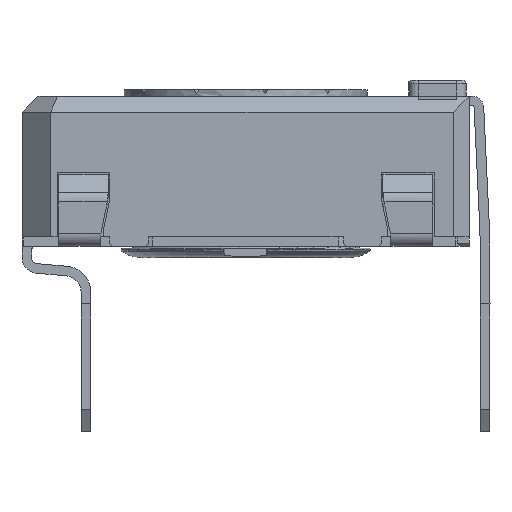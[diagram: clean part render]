
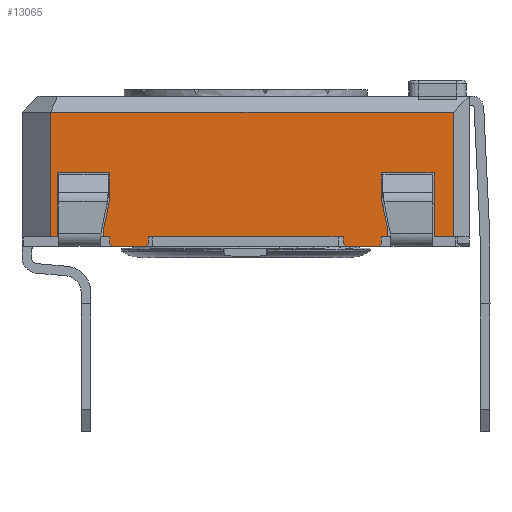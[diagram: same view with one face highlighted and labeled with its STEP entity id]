
A CAD part, left-side view. The second image highlights one B-rep face of the part: STEP entity #13065.
In plain terms, the highlighted planar face has unit normal (-1, 0, 0).
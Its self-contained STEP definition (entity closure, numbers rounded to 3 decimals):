
#449=PLANE('',#13955);
#1055=FACE_OUTER_BOUND('',#1749,.T.);
#1749=EDGE_LOOP('',(#10775,#10776,#10777,#10778,#10779,#10780,#10781,#10782,
#10783,#10784,#10785,#10786,#10787,#10788,#10789,#10790,#10791,#10792,#10793,
#10794,#10795,#10796,#10797,#10798,#10799,#10800,#10801,#10802));
#2743=LINE('',#19934,#4243);
#2749=LINE('',#19946,#4249);
#2752=LINE('',#19953,#4252);
#2757=LINE('',#19962,#4257);
#2777=LINE('',#20003,#4277);
#2791=LINE('',#20029,#4291);
#2795=LINE('',#20036,#4295);
#2810=LINE('',#20065,#4310);
#2813=LINE('',#20071,#4313);
#2818=LINE('',#20081,#4318);
#2821=LINE('',#20087,#4321);
#2824=LINE('',#20093,#4324);
#2842=LINE('',#20128,#4342);
#2854=LINE('',#20150,#4354);
#2857=LINE('',#20156,#4357);
#2894=LINE('',#20290,#4394);
#2897=LINE('',#20296,#4397);
#2923=LINE('',#20343,#4423);
#2928=LINE('',#20353,#4428);
#2930=LINE('',#20356,#4430);
#3054=LINE('',#20664,#4554);
#3056=LINE('',#20669,#4556);
#3059=LINE('',#20673,#4559);
#3061=LINE('',#20677,#4561);
#3064=LINE('',#20685,#4564);
#3065=LINE('',#20687,#4565);
#3066=LINE('',#20688,#4566);
#3067=LINE('',#20689,#4567);
#4243=VECTOR('',#16030,10.);
#4249=VECTOR('',#16038,10.);
#4252=VECTOR('',#16043,10.);
#4257=VECTOR('',#16050,10.);
#4277=VECTOR('',#16084,10.);
#4291=VECTOR('',#16098,10.);
#4295=VECTOR('',#16102,10.);
#4310=VECTOR('',#16129,10.);
#4313=VECTOR('',#16134,10.);
#4318=VECTOR('',#16141,10.);
#4321=VECTOR('',#16146,10.);
#4324=VECTOR('',#16151,10.);
#4342=VECTOR('',#16171,10.);
#4354=VECTOR('',#16185,10.);
#4357=VECTOR('',#16190,10.);
#4394=VECTOR('',#16271,10.);
#4397=VECTOR('',#16276,10.);
#4423=VECTOR('',#16304,10.);
#4428=VECTOR('',#16311,10.);
#4430=VECTOR('',#16315,10.);
#4554=VECTOR('',#16607,10.);
#4556=VECTOR('',#16611,10.);
#4559=VECTOR('',#16616,10.);
#4561=VECTOR('',#16622,10.);
#4564=VECTOR('',#16633,10.);
#4565=VECTOR('',#16634,10.);
#4566=VECTOR('',#16635,10.);
#4567=VECTOR('',#16636,10.);
#5980=VERTEX_POINT('',#19931);
#5981=VERTEX_POINT('',#19933);
#5985=VERTEX_POINT('',#19943);
#5987=VERTEX_POINT('',#19949);
#5989=VERTEX_POINT('',#19952);
#5992=VERTEX_POINT('',#19960);
#6017=VERTEX_POINT('',#20026);
#6018=VERTEX_POINT('',#20028);
#6020=VERTEX_POINT('',#20033);
#6021=VERTEX_POINT('',#20035);
#6028=VERTEX_POINT('',#20062);
#6030=VERTEX_POINT('',#20068);
#6034=VERTEX_POINT('',#20078);
#6036=VERTEX_POINT('',#20084);
#6039=VERTEX_POINT('',#20091);
#6055=VERTEX_POINT('',#20126);
#6064=VERTEX_POINT('',#20148);
#6066=VERTEX_POINT('',#20154);
#6093=VERTEX_POINT('',#20288);
#6094=VERTEX_POINT('',#20293);
#6114=VERTEX_POINT('',#20340);
#6118=VERTEX_POINT('',#20350);
#6192=VERTEX_POINT('',#20661);
#6193=VERTEX_POINT('',#20663);
#6194=VERTEX_POINT('',#20667);
#6195=VERTEX_POINT('',#20668);
#6196=VERTEX_POINT('',#20684);
#6197=VERTEX_POINT('',#20686);
#7493=EDGE_CURVE('',#5981,#5980,#2743,.T.);
#7499=EDGE_CURVE('',#5980,#5985,#2749,.T.);
#7502=EDGE_CURVE('',#5989,#5987,#2752,.T.);
#7507=EDGE_CURVE('',#5992,#5987,#2757,.T.);
#7527=EDGE_CURVE('',#5985,#5989,#2777,.T.);
#7541=EDGE_CURVE('',#6018,#6017,#2791,.T.);
#7545=EDGE_CURVE('',#6021,#6020,#2795,.T.);
#7561=EDGE_CURVE('',#6017,#6028,#2810,.T.);
#7564=EDGE_CURVE('',#6028,#6030,#2813,.T.);
#7569=EDGE_CURVE('',#6030,#6034,#2818,.T.);
#7572=EDGE_CURVE('',#6034,#6036,#2821,.T.);
#7575=EDGE_CURVE('',#6036,#6039,#2824,.T.);
#7593=EDGE_CURVE('',#6039,#6055,#2842,.T.);
#7605=EDGE_CURVE('',#6064,#6055,#2854,.T.);
#7608=EDGE_CURVE('',#6066,#6064,#2857,.T.);
#7657=EDGE_CURVE('',#6093,#6066,#2894,.T.);
#7660=EDGE_CURVE('',#6093,#6094,#2897,.T.);
#7686=EDGE_CURVE('',#6094,#6114,#2923,.T.);
#7691=EDGE_CURVE('',#6114,#6118,#2928,.T.);
#7693=EDGE_CURVE('',#6118,#5981,#2930,.T.);
#7833=EDGE_CURVE('',#6192,#6193,#3054,.T.);
#7835=EDGE_CURVE('',#6194,#6195,#3056,.T.);
#7838=EDGE_CURVE('',#6018,#6192,#3059,.T.);
#7840=EDGE_CURVE('',#6020,#6195,#3061,.T.);
#7843=EDGE_CURVE('',#5992,#6196,#3064,.T.);
#7844=EDGE_CURVE('',#6197,#6196,#3065,.T.);
#7845=EDGE_CURVE('',#6021,#6197,#3066,.T.);
#7846=EDGE_CURVE('',#6194,#6193,#3067,.T.);
#10775=ORIENTED_EDGE('',*,*,#7499,.T.);
#10776=ORIENTED_EDGE('',*,*,#7527,.T.);
#10777=ORIENTED_EDGE('',*,*,#7502,.T.);
#10778=ORIENTED_EDGE('',*,*,#7507,.F.);
#10779=ORIENTED_EDGE('',*,*,#7843,.T.);
#10780=ORIENTED_EDGE('',*,*,#7844,.F.);
#10781=ORIENTED_EDGE('',*,*,#7845,.F.);
#10782=ORIENTED_EDGE('',*,*,#7545,.T.);
#10783=ORIENTED_EDGE('',*,*,#7840,.T.);
#10784=ORIENTED_EDGE('',*,*,#7835,.F.);
#10785=ORIENTED_EDGE('',*,*,#7846,.T.);
#10786=ORIENTED_EDGE('',*,*,#7833,.F.);
#10787=ORIENTED_EDGE('',*,*,#7838,.F.);
#10788=ORIENTED_EDGE('',*,*,#7541,.T.);
#10789=ORIENTED_EDGE('',*,*,#7561,.T.);
#10790=ORIENTED_EDGE('',*,*,#7564,.T.);
#10791=ORIENTED_EDGE('',*,*,#7569,.T.);
#10792=ORIENTED_EDGE('',*,*,#7572,.T.);
#10793=ORIENTED_EDGE('',*,*,#7575,.T.);
#10794=ORIENTED_EDGE('',*,*,#7593,.T.);
#10795=ORIENTED_EDGE('',*,*,#7605,.F.);
#10796=ORIENTED_EDGE('',*,*,#7608,.F.);
#10797=ORIENTED_EDGE('',*,*,#7657,.F.);
#10798=ORIENTED_EDGE('',*,*,#7660,.T.);
#10799=ORIENTED_EDGE('',*,*,#7686,.T.);
#10800=ORIENTED_EDGE('',*,*,#7691,.T.);
#10801=ORIENTED_EDGE('',*,*,#7693,.T.);
#10802=ORIENTED_EDGE('',*,*,#7493,.T.);
#13065=ADVANCED_FACE('',(#1055),#449,.T.);
#13955=AXIS2_PLACEMENT_3D('',#20683,#16631,#16632);
#16030=DIRECTION('',(0.,0.208,-0.978));
#16038=DIRECTION('',(0.,0.,-1.));
#16043=DIRECTION('',(0.,0.,-1.));
#16050=DIRECTION('',(0.,0.707,0.707));
#16084=DIRECTION('',(0.,-1.,0.));
#16098=DIRECTION('',(0.,-1.,0.));
#16102=DIRECTION('',(0.,-1.,0.));
#16129=DIRECTION('',(0.,0.,1.));
#16134=DIRECTION('',(0.,0.208,0.978));
#16141=DIRECTION('',(0.,0.,1.));
#16146=DIRECTION('',(0.,-1.,0.));
#16151=DIRECTION('',(0.,0.,-1.));
#16171=DIRECTION('',(0.,-1.,0.));
#16185=DIRECTION('',(0.,0.,-1.));
#16190=DIRECTION('',(0.,-1.,0.));
#16271=DIRECTION('',(0.,0.,1.));
#16276=DIRECTION('',(0.,-1.,0.));
#16304=DIRECTION('',(0.,0.,1.));
#16311=DIRECTION('',(0.,-1.,0.));
#16315=DIRECTION('',(0.,0.,-1.));
#16607=DIRECTION('',(0.,0.707,-0.707));
#16611=DIRECTION('',(0.,0.707,0.707));
#16616=DIRECTION('',(0.,0.,-1.));
#16622=DIRECTION('',(0.,0.,-1.));
#16631=DIRECTION('center_axis',(-1.,0.,0.));
#16632=DIRECTION('ref_axis',(0.,0.,1.));
#16633=DIRECTION('',(0.,-1.,0.));
#16634=DIRECTION('',(0.,0.707,-0.707));
#16635=DIRECTION('',(0.,0.,-1.));
#16636=DIRECTION('',(0.,-1.,0.));
#19931=CARTESIAN_POINT('',(-14.467,1.552,0.235));
#19933=CARTESIAN_POINT('',(-14.467,1.352,1.176));
#19934=CARTESIAN_POINT('',(-14.467,1.228,1.757));
#19943=CARTESIAN_POINT('',(-14.467,1.552,0.));
#19946=CARTESIAN_POINT('',(-14.467,1.552,0.));
#19949=CARTESIAN_POINT('',(-14.467,1.352,-0.2));
#19952=CARTESIAN_POINT('',(-14.467,1.352,0.));
#19953=CARTESIAN_POINT('',(-14.467,1.352,0.));
#19960=CARTESIAN_POINT('',(-14.467,1.252,-0.3));
#19962=CARTESIAN_POINT('',(-14.467,-1.436,-2.988));
#20003=CARTESIAN_POINT('',(-14.467,4.102,0.));
#20026=CARTESIAN_POINT('',(-14.467,-7.348,0.));
#20028=CARTESIAN_POINT('',(-14.467,-7.148,0.));
#20029=CARTESIAN_POINT('',(-14.467,4.102,0.));
#20033=CARTESIAN_POINT('',(-14.467,-5.948,0.));
#20035=CARTESIAN_POINT('',(-14.467,0.152,0.));
#20036=CARTESIAN_POINT('',(-14.467,4.102,0.));
#20062=CARTESIAN_POINT('',(-14.467,-7.348,0.235));
#20065=CARTESIAN_POINT('',(-14.467,-7.348,0.118));
#20068=CARTESIAN_POINT('',(-14.467,-7.148,1.176));
#20071=CARTESIAN_POINT('',(-14.467,-7.453,-0.254));
#20078=CARTESIAN_POINT('',(-14.467,-7.148,2.));
#20081=CARTESIAN_POINT('',(-14.467,-7.148,0.588));
#20084=CARTESIAN_POINT('',(-14.467,-8.798,2.));
#20087=CARTESIAN_POINT('',(-14.467,-8.523,2.));
#20091=CARTESIAN_POINT('',(-14.467,-8.798,0.));
#20093=CARTESIAN_POINT('',(-14.467,-8.798,0.));
#20126=CARTESIAN_POINT('',(-14.467,-9.398,0.));
#20128=CARTESIAN_POINT('',(-14.467,-9.595,0.));
#20148=CARTESIAN_POINT('',(-14.467,-9.398,3.9));
#20150=CARTESIAN_POINT('',(-14.467,-9.398,0.));
#20154=CARTESIAN_POINT('',(-14.467,3.202,3.9));
#20156=CARTESIAN_POINT('',(-14.467,-6.398,3.9));
#20288=CARTESIAN_POINT('',(-14.467,3.202,0.));
#20290=CARTESIAN_POINT('',(-14.467,3.202,0.));
#20293=CARTESIAN_POINT('',(-14.467,3.002,0.));
#20296=CARTESIAN_POINT('',(-14.467,-2.985,0.));
#20340=CARTESIAN_POINT('',(-14.467,3.002,2.));
#20343=CARTESIAN_POINT('',(-14.467,3.002,0.));
#20350=CARTESIAN_POINT('',(-14.467,1.352,2.));
#20353=CARTESIAN_POINT('',(-14.467,-3.448,2.));
#20356=CARTESIAN_POINT('',(-14.467,1.352,1.));
#20661=CARTESIAN_POINT('',(-14.467,-7.148,-0.2));
#20663=CARTESIAN_POINT('',(-14.467,-7.048,-0.3));
#20664=CARTESIAN_POINT('',(-14.467,-7.861,0.513));
#20667=CARTESIAN_POINT('',(-14.467,-6.048,-0.3));
#20668=CARTESIAN_POINT('',(-14.467,-5.948,-0.2));
#20669=CARTESIAN_POINT('',(-14.467,-6.911,-1.163));
#20673=CARTESIAN_POINT('',(-14.467,-7.148,0.));
#20677=CARTESIAN_POINT('',(-14.467,-5.948,0.));
#20683=CARTESIAN_POINT('Origin',(-14.467,-9.898,0.));
#20684=CARTESIAN_POINT('',(-14.467,0.252,-0.3));
#20685=CARTESIAN_POINT('',(-14.467,0.152,-0.3));
#20686=CARTESIAN_POINT('',(-14.467,0.152,-0.2));
#20687=CARTESIAN_POINT('',(-14.467,-2.386,2.338));
#20688=CARTESIAN_POINT('',(-14.467,0.152,0.));
#20689=CARTESIAN_POINT('',(-14.467,-7.148,-0.3));
